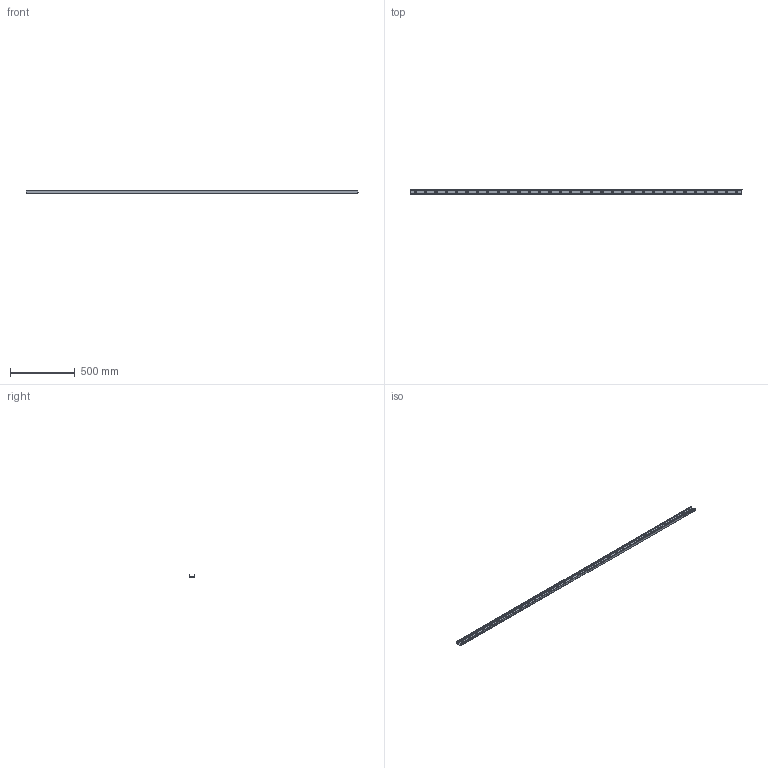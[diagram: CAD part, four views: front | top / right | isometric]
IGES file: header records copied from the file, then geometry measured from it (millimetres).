
Start section: SolidWorks IGES file using analytic representation for surfaces
Global section: file name: C:\Users\IanO\Desktop\43\L1943.ULC43_v2_20180121_IGES\L1943.ULC43-2560.igs; native system: SolidWorks 2017; preprocessor: SolidWorks 2017; author: IanO; date: 190121.085032; units: millimetre
Bounding box: 2560 x 43 x 21 mm (x, y, z)
Surface area: 401552.3 mm2 (no closed solid volume)
Topology: 0 solids, 0 shells, 186 faces, 4902 edges, 4902 vertices
Faces by surface type: revolution 141, bspline 45
